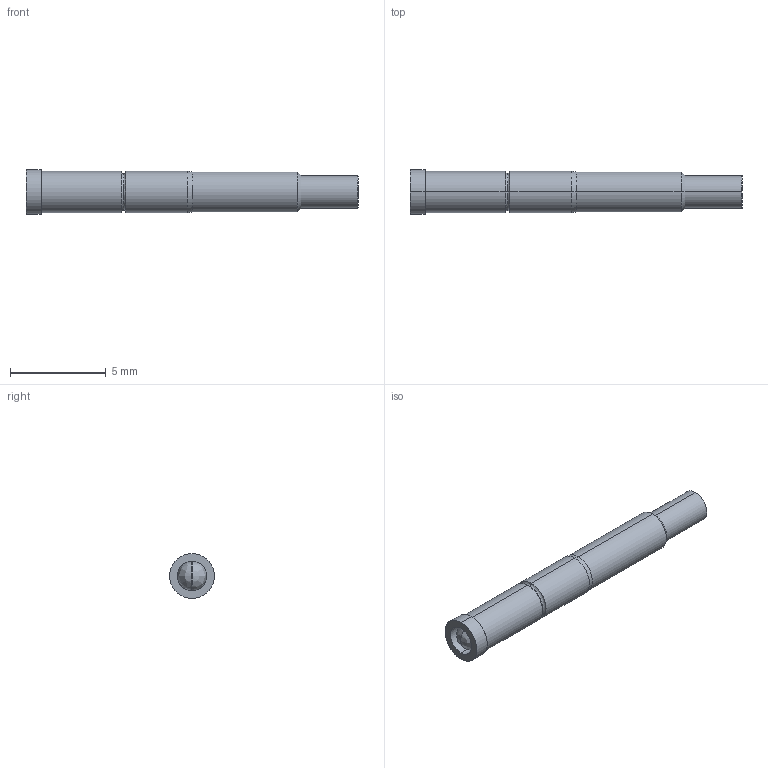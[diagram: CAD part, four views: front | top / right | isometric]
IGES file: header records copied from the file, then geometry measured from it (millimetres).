
Start section: SolidWorks IGES file using analytic representation for surfaces
Global section: file name: O:\PYLON\IGES FILES\G-S\G-S-R FULL.IGS; native system: SolidWorks 2015; preprocessor: SolidWorks 2015; author: kgolden; date: 171024.094328; units: inch
Bounding box: 17.3 x 2.34 x 2.34 mm (x, y, z)
Surface area: 138.5 mm2 (no closed solid volume)
Topology: 0 solids, 0 shells, 29 faces, 264 edges, 264 vertices
Faces by surface type: revolution 18, bspline 11
